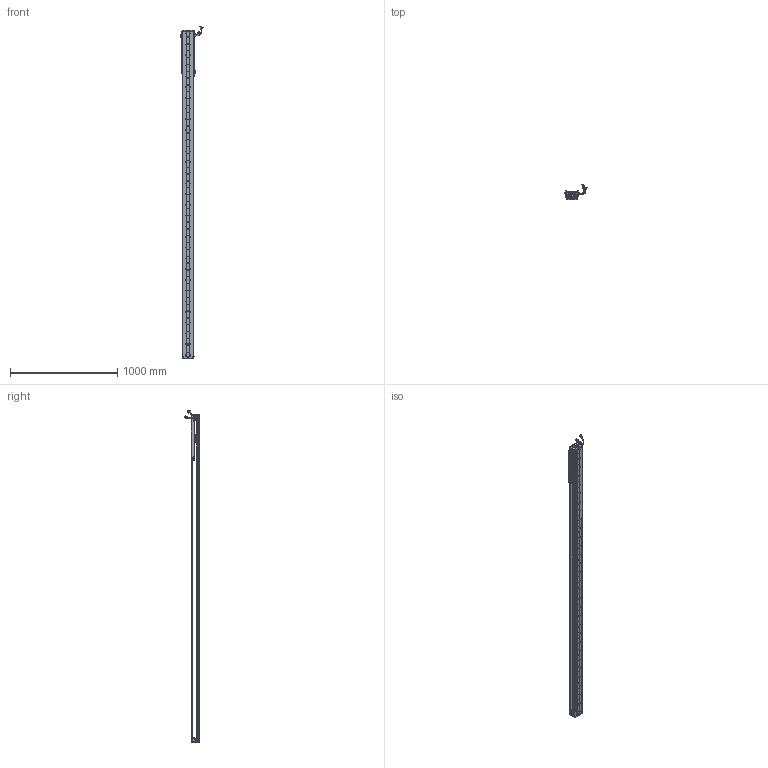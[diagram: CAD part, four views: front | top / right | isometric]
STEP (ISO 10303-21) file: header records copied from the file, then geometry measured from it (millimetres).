
FILE_DESCRIPTION (( 'STEP AP203' ), '1' );
FILE_NAME ('Z5-RY100D-1-L500-B-K.SLDASM_2600.step', '2021-05-17T03:35:15', ( '盈信电脑' ), ( '东莞市道滘镇水果街19号' ), 'SwSTEP 2.0', 'SolidWorks 2016', '' );
FILE_SCHEMA (( 'CONFIG_CONTROL_DESIGN' ));
Length unit declared in the file: millimetre
Products named in the file (36): HARNESS; 100-Z-臏賑輸盄裔(21遴); SEAL; 080黍杅芛假蚾釱21遴; 覜茼ん672; SCALE-Part-2; SCREW-M1.6-3; COVER-Part-1; Z-RY100D詩湍奻揤裔; SCREW-M1.7-1; PSLH080_PSLF2; Z-RY100D覜茼んえ; 140雄赽晤鎢ん堤盄; Z-RY100D詩湍狟揤裔; HOLDER0; SCREW-M1.6-1; COVER; HARNESS-Part-2; Z5-RY100D-500-倰第菁釱_2600; 140蚥薯蝶輸; Z5-RY100-L500詩湍90mm遵_2600; Z-100詩湍傷裔啣; SEAL-Part-1; SHIELDPLATE; Z5-RY100D-1-L500-B-K.SLDASM_2600; PBU_SHEET; 榋妏寠巭燃_暯_M2_2; SCALE; SCREW-M1.6; LABEL; Z5-RY100铝滑块（21款）; SCREW-M1.7; SCALE-Part-1; HARNESS-Part-1; SCREW-M1.6-2; LABEL-Part-1
Assembly tree (43 placements, depth 4):
  Z5-RY100D-1-L500-B-K.SLDASM_2600
    Z5-RY100D-500-倰第菁釱_2600
    Z5-RY100铝滑块（21款）
    PSLH080_PSLF2
      SCALE
        SCALE-Part-1
        SCALE-Part-2
      HARNESS
        HARNESS-Part-1
        HARNESS-Part-2
      LABEL
        LABEL-Part-1
      COVER
        COVER-Part-1
      SEAL
        SEAL-Part-1
      榋妏寠巭燃_暯_M2_2
      SHIELDPLATE
      SCREW-M1.7
      SCREW-M1.7-1
      PBU_SHEET
      SCREW-M1.6
      SCREW-M1.6-1
      SCREW-M1.6-2
      SCREW-M1.6-3
      HOLDER0
    080黍杅芛假蚾釱21遴
    Z-100詩湍傷裔啣  x2
    140蚥薯蝶輸  x2
    覜茼ん672  x3
    Z-RY100D覜茼んえ  x3
    100-Z-臏賑輸盄裔(21遴)
    140雄赽晤鎢ん堤盄
    Z5-RY100-L500詩湍90mm遵_2600
    Z-RY100D詩湍狟揤裔  x2
    Z-RY100D詩湍奻揤裔  x2
Bounding box: 205.79 x 136.11 x 3100.43 mm (x, y, z)
Volume: 5789119.3 mm3; surface area: 2253839.4 mm2
Topology: 38 solids, 38 shells, 3139 faces, 8635 edges, 5524 vertices
Faces by surface type: cylinder 1586, plane 1205, cone 226, torus 69, bspline 53
Entity records: 92153 total; most frequent: CARTESIAN_POINT 19259, DIRECTION 14929, ORIENTED_EDGE 14150, EDGE_CURVE 7075, AXIS2_PLACEMENT_3D 5642, VERTEX_POINT 4592, LINE 3645, VECTOR 3645
